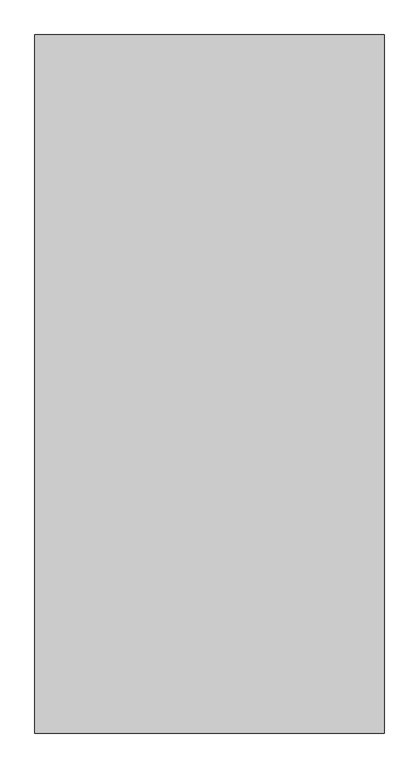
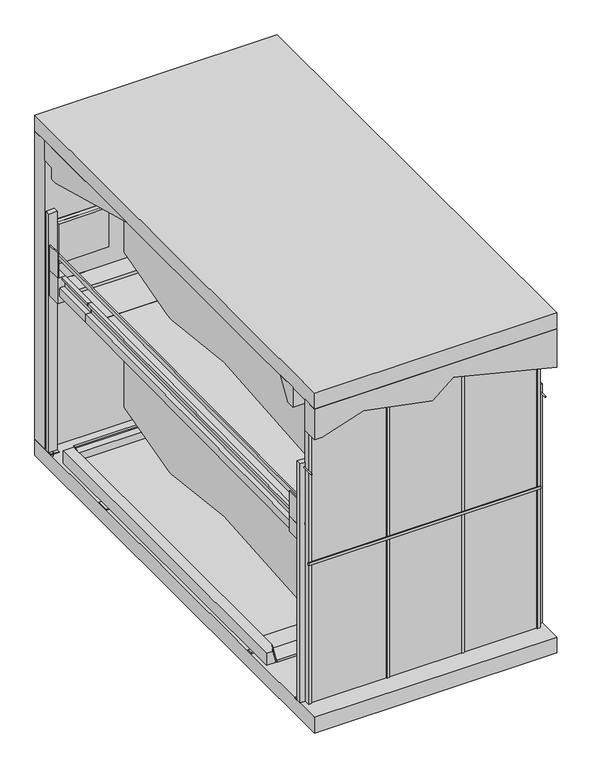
"""IFC4 building model written with IfcOpenShell, lengths in millimetres: proxy geometry, TrendVario 6200+ : TrendVario 6200+."""

from ifc_helpers import new_model, si_unit, point, frame, frame_2d, origin, origin_with_axes, place, context, project, spatial, polyline, circle_curve, trimmed, segment, composite_curve, outline, extrude, faceted_brep, source, transform, mapped, element, save
from ifc_brep_helpers import plane_surface, cylinder_surface, spline_surface, advanced_brep


def generic_models_32a2c880(model_context):
    return source(origin(), model_context, "Body", "SolidModel", [
        extrude(outline(composite_curve([segment(trimmed(circle_curve(frame_2d((2850.0, 5300.0602659)), 6.0), [point((2850.0, 5294.0602659))], [point((2850.0, 5306.0602659))], False, "CARTESIAN"), True, "CONTINUOUS"), segment(trimmed(circle_curve(frame_2d((2850.0, 5300.0602659)), 6.0), [point((2850.0, 5306.0602659))], [point((2850.0, 5294.0602659))], False, "CARTESIAN"), True, "CONTINUOUS")], self_intersect=False)), frame((0.0, 0.0, -150.0), z_axis=(0.0, 0.0, 1.0), x_axis=(1.0, 0.0, 0.0)), (0.0, 0.0, 1.0), 150.0),
        extrude(outline(composite_curve([segment(trimmed(circle_curve(frame_2d((50.0, 5300.0602653)), 6.0), [point((44.0, 5300.0602653))], [point((56.0, 5300.0602653))], False, "CARTESIAN"), True, "CONTINUOUS"), segment(trimmed(circle_curve(frame_2d((50.0, 5300.0602653)), 6.0), [point((56.0, 5300.0602653))], [point((44.0, 5300.0602653))], False, "CARTESIAN"), True, "CONTINUOUS")], self_intersect=False)), frame((0.0, 0.0, -150.0), z_axis=(0.0, 0.0, 1.0), x_axis=(1.0, 0.0, 0.0)), (0.0, 0.0, 1.0), 150.0),
        extrude(outline(composite_curve([segment(trimmed(circle_curve(frame_2d((2850.0, 170.0)), 6.0), [point((2850.0, 164.0))], [point((2850.0, 176.0))], False, "CARTESIAN"), True, "CONTINUOUS"), segment(trimmed(circle_curve(frame_2d((2850.0, 170.0)), 6.0), [point((2850.0, 176.0))], [point((2850.0, 164.0))], False, "CARTESIAN"), True, "CONTINUOUS")], self_intersect=False)), frame((0.0, 0.0, -150.0), z_axis=(0.0, 0.0, 1.0), x_axis=(1.0, 0.0, 0.0)), (0.0, 0.0, 1.0), 150.0),
        extrude(outline(composite_curve([segment(trimmed(circle_curve(frame_2d((50.0, 170.0)), 6.0), [point((44.0, 170.0))], [point((56.0, 170.0))], False, "CARTESIAN"), True, "CONTINUOUS"), segment(trimmed(circle_curve(frame_2d((50.0, 170.0)), 6.0), [point((56.0, 170.0))], [point((44.0, 170.0))], False, "CARTESIAN"), True, "CONTINUOUS")], self_intersect=False)), frame((0.0, 0.0, -150.0), z_axis=(0.0, 0.0, 1.0), x_axis=(1.0, 0.0, 0.0)), (0.0, 0.0, 1.0), 150.0),
        extrude(outline(composite_curve([segment(trimmed(circle_curve(frame_2d((2965.0, 2850.0)), 6.0), [point((2965.0, 2844.0))], [point((2965.0, 2856.0))], False, "CARTESIAN"), True, "CONTINUOUS"), segment(trimmed(circle_curve(frame_2d((2965.0, 2850.0)), 6.0), [point((2965.0, 2856.0))], [point((2965.0, 2844.0))], False, "CARTESIAN"), True, "CONTINUOUS")], self_intersect=False)), frame((0.0, -50.0, 0.0), z_axis=(0.0, 1.0, 0.0), x_axis=(0.0, 0.0, 1.0)), (0.0, 0.0, 1.0), 150.0),
        extrude(outline(composite_curve([segment(trimmed(circle_curve(frame_2d((2965.0, 50.0)), 6.0), [point((2965.0, 44.0))], [point((2965.0, 56.0))], False, "CARTESIAN"), True, "CONTINUOUS"), segment(trimmed(circle_curve(frame_2d((2965.0, 50.0)), 6.0), [point((2965.0, 56.0))], [point((2965.0, 44.0))], False, "CARTESIAN"), True, "CONTINUOUS")], self_intersect=False)), frame((0.0, -50.0, 0.0), z_axis=(0.0, 1.0, 0.0), x_axis=(0.0, 0.0, 1.0)), (0.0, 0.0, 1.0), 150.0),
        extrude(outline(composite_curve([segment(trimmed(circle_curve(frame_2d((2965.0, 50.0)), 6.0), [point((2965.0, 44.0))], [point((2965.0, 56.0))], False, "CARTESIAN"), True, "CONTINUOUS"), segment(trimmed(circle_curve(frame_2d((2965.0, 50.0)), 6.0), [point((2965.0, 56.0))], [point((2965.0, 44.0))], False, "CARTESIAN"), True, "CONTINUOUS")], self_intersect=False)), frame((0.0, 5369.5816653, 0.0), z_axis=(0.0, 1.0, 0.0), x_axis=(0.0, 0.0, 1.0)), (0.0, 0.0, 1.0), 150.0),
        extrude(outline(composite_curve([segment(trimmed(circle_curve(frame_2d((2965.0, 2850.0)), 6.0), [point((2965.0, 2844.0))], [point((2965.0, 2856.0))], False, "CARTESIAN"), True, "CONTINUOUS"), segment(trimmed(circle_curve(frame_2d((2965.0, 2850.0)), 6.0), [point((2965.0, 2856.0))], [point((2965.0, 2844.0))], False, "CARTESIAN"), True, "CONTINUOUS")], self_intersect=False)), frame((0.0, 5369.6045102, 0.0), z_axis=(0.0, 1.0, 0.0), x_axis=(0.0, 0.0, 1.0)), (0.0, 0.0, 1.0), 150.0),
        extrude(outline(polyline([(0.0, -60.0), (0.0, 0.0), (4430.0, 0.0), (4430.0, -60.0), (0.0, -60.0)])), frame((2811.0, 171.9869847, 2038.264563), z_axis=(0.0, -0.008726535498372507, 0.9999619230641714), x_axis=(0.0, 0.9999619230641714, 0.008726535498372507)), (0.0, 0.0, 1.0), 100.0),
        extrude(outline(polyline([(0.0, -19.0), (0.0, 0.0), (4440.0, 0.0), (4440.0, -19.0), (0.0, -19.0)])), frame((2863.0, 167.9116926, 2505.246781), z_axis=(0.0, -0.008726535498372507, 0.9999619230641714), x_axis=(0.0, 0.9999619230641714, 0.008726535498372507)), (0.0, 0.0, 1.0), 56.0),
        faceted_brep([(2800.0, 4599.8286538, 2304.9144337), (2843.0, 4599.8286538, 2304.9144337), (2843.0, 4600.0904499, 2274.915576), (2840.0, 4600.0904499, 2274.915576), (2840.0, 4599.8548334, 2301.9145479), (2803.0, 4599.8548334, 2301.9145479), (2803.0, 4602.6211451, 1984.9266183), (2748.0, 4602.6211451, 1984.9266183), (2748.0, 4602.210998, 2031.9248287), (2711.0, 4602.210998, 2031.9248287), (2711.0, 4602.1848184, 2034.9247145), (2751.0, 4602.1848184, 2034.9247145), (2751.0, 4602.5949655, 1987.9265041), (2800.0, 4602.5949655, 1987.9265041), (2803.0, 102.7924914, 1945.6572086), (2803.0, 100.0261796, 2262.6451382), (2840.0, 100.0261796, 2262.6451382), (2840.0, 100.2617961, 2235.6461663), (2843.0, 100.2617961, 2235.6461663), (2843.0, 100.0, 2265.645024), (2800.0, 100.0, 2265.645024), (2800.0, 102.7924914, 1945.6572086), (2800.0, 202.7886837, 1946.5298621), (2748.0, 202.7886837, 1946.5298621), (2748.0, 202.3785365, 1993.5280725), (2711.0, 202.3785365, 1993.5280725), (2711.0, 202.3523569, 1996.5279583), (2751.0, 202.3523569, 1996.5279583), (2751.0, 202.7625041, 1949.5297479), (2800.0, 202.7625041, 1949.5297479)], [[[0, 1, 2, 3, 4, 5, 6, 7, 8, 9, 10, 11, 12, 13]], [[14, 15, 16, 17, 18, 19, 20, 21]], [[1, 0, 20, 19]], [[2, 1, 19, 18]], [[3, 2, 18, 17]], [[4, 3, 17, 16]], [[5, 4, 16, 15]], [[6, 5, 15, 14]], [[7, 6, 14, 21, 22, 23]], [[8, 7, 23, 24]], [[9, 8, 24, 25]], [[10, 9, 25, 26]], [[11, 10, 26, 27]], [[12, 11, 27, 28]], [[13, 12, 28, 29]], [[0, 13, 29, 22, 21, 20]], [[22, 29, 28, 27, 26, 25, 24, 23]]]),
        extrude(outline(polyline([(2133.867435, 0.0), (2133.867435, -1200.0), (-1962.132565, -1200.0), (-1962.132565, 0.0), (2133.867435, 0.0)])), frame((1600.0, 2468.3986345, 2016.3034445), z_axis=(0.0, -0.008726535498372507, 0.9999619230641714), x_axis=(0.0, 0.9999619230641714, 0.008726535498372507)), (0.0, 0.0, 1.0), 8.0),
        extrude(outline(polyline([(0.0, -1500.0), (0.0, 0.0), (769.9999999, 0.0), (769.9999999, -1500.0), (0.0, -1500.0)])), frame((100.0, 4602.1898877, 2034.9247587), z_axis=(0.0, -0.008726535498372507, 0.9999619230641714), x_axis=(0.0, 0.9999619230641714, 0.008726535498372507)), (0.0, 0.0, 1.0), 8.0),
        extrude(outline(polyline([(5133.7158509, 2091.5652956), (5371.7067886, 2093.642211), (5372.0907561, 2049.6438864), (5369.0908704, 2049.6177068), (5368.7330824, 2090.6161457), (5136.7419163, 2088.5915894), (5137.0997042, 2047.5931506), (5134.0998185, 2047.566971), (5133.7158509, 2091.5652956)])), frame((100.0, 0.0, 0.0), z_axis=(1.0, 0.0, 0.0), x_axis=(0.0, 1.0, 0.0)), (0.0, 0.0, 1.0), 1500.0),
        extrude(outline(polyline([(319.9999999, 0.0), (319.9999999, -43.0), (289.9999999, -43.0), (289.9999999, -40.0), (317.0, -40.0), (317.0, -3.0), (0.0, -3.0), (0.0, 52.0), (46.9999999, 52.0), (46.9999999, 89.0), (49.9999999, 89.0), (49.9999999, 49.0), (2.9999999, 49.0), (2.9999999, 0.0), (319.9999999, 0.0)])), frame((100.0, 4602.6262144, 1984.9266626), z_axis=(0.0, 0.9999619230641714, 0.008726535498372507), x_axis=(0.0, -0.008726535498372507, 0.9999619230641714)), (0.0, 0.0, 1.0), 770.0),
        extrude(outline(polyline([(200.0, 8.0), (200.0, 0.0), (100.0, 0.0), (100.0, 3025.0), (160.0, 3025.0), (160.0, 8.0), (200.0, 8.0)])), frame((0.0, 0.0, 0.0), z_axis=(1.0, 0.0, 0.0), x_axis=(0.0, 1.0, 0.0)), (0.0, 0.0, 1.0), 100.0),
        faceted_brep([(0.0, 5249.9885779, 3650.0), (2901.0, 5249.9885779, 3650.0), (2901.0, 5249.9885779, 3500.0), (0.0, 5249.9885779, 3500.0), (0.0, 5399.9657348, 3650.0), (2901.0, 5399.9657348, 3650.0), (2901.0, 5167.6820669, 3500.0), (2901.0, 3699.9673137, 3900.0057953), (0.0, 3699.9885779, 3900.0), (0.0, 5167.6820669, 3500.0), (2901.0, 5399.9657348, 3900.0), (0.0, 5399.9657348, 3900.0)], [[[0, 1, 2, 3]], [[1, 0, 4, 5]], [[6, 7, 8, 9]], [[10, 7, 6, 2, 1, 5]], [[8, 11, 4, 0, 3, 9]], [[11, 10, 5, 4]], [[7, 10, 11, 8]], [[2, 6, 9, 3]]]),
        extrude(outline(polyline([(3511.8273555, 0.0), (3511.8273555, 90.0080034), (3672.5161926, 584.5573919), (3511.8273555, 1411.229794), (3719.8801857, 1665.5456754), (3411.8468264, 2901.0), (3900.0, 2901.0), (3900.0, 0.0), (3511.8273555, 0.0)])), frame((0.0, -200.0, 0.0), z_axis=(0.0, 1.0, 0.0), x_axis=(0.0, 0.0, 1.0)), (0.0, 0.0, 1.0), 200.0),
        extrude(outline(polyline([(100.0, 45.0), (100.0, 55.0), (2800.0, 55.0), (2800.0, 45.0), (100.0, 45.0)])), origin_with_axes(), (0.0, 0.0, 1.0), 3526.0),
        extrude(outline(polyline([(1932.0, 44.0), (1932.0, 35.0), (1902.0, 35.0), (1902.0, 44.0), (1932.0, 44.0)])), origin_with_axes(), (0.0, 0.0, 1.0), 3526.0),
        extrude(outline(polyline([(1031.0, 44.0), (1031.0, 35.0), (1001.0, 35.0), (1001.0, 44.0), (1031.0, 44.0)])), origin_with_axes(), (0.0, 0.0, 1.0), 3526.0),
        extrude(outline(polyline([(0.0, -19.0), (0.0, 0.0), (5147.1058324, 0.0), (5147.1058324, -19.0), (0.0, -19.0)])), frame((37.0, 5302.7546227, 2550.0578764), z_axis=(0.0, -0.008726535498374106, 0.9999619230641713), x_axis=(0.0, -0.9999619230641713, -0.008726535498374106)), (0.0, 0.0, 1.0), 56.0),
        extrude(outline(polyline([(18.0, 5142.5968952), (7.0, 5142.5968952), (7.0, 5312.5968952), (18.0, 5312.5968952), (18.0, 5142.5968952)])), frame((0.0, 0.0, 2319.0), z_axis=(0.0, 0.0, 1.0), x_axis=(1.0, 0.0, 0.0)), (0.0, 0.0, 1.0), 310.0),
        extrude(outline(polyline([(2882.0, 5142.0602659), (2882.0, 5312.0602659), (2893.0, 5312.0602659), (2893.0, 5142.0602659), (2882.0, 5142.0602659)])), frame((0.0, 0.0, 2319.0), z_axis=(0.0, 0.0, 1.0), x_axis=(1.0, 0.0, 0.0)), (0.0, 0.0, 1.0), 310.0),
        advanced_brep(
        [(2878.3930268, 838.0907234, 21.8284597), (2878.3930268, 838.0907234, 173.2797049), (2800.0, 838.0907234, 173.2797049), (2760.0, 838.0907234, 21.8284597), (2878.3930268, 5057.0907234, 21.8284597), (2750.0, 5057.0907234, 21.8284597), (2750.0, 5057.0907234, 173.2797049), (2878.3930268, 5057.0907234, 173.2797049), (2750.0, 938.0907234, 173.2797049), (2750.0, 848.0907234, 21.8284597)],
        [
            (0, 1),
            (1, 2),
            (2, 3),
            (3, 0),
            (4, 5),
            (5, 6),
            (6, 7),
            (7, 4),
            (0, 4),
            (7, 1),
            (6, 8),
            (8, 2),
            (5, 9),
            (9, 8),
            (3, 9),
        ],
        [
            plane_surface(frame((2750.0, 838.0907234, 0.0), z_axis=(0.0, -1.0, 0.0), x_axis=(0.0, 0.0, 1.0))),
            plane_surface(frame((2750.0, 5057.0907234, 0.0), z_axis=(0.0, 1.0, 0.0), x_axis=(0.0, 0.0, 1.0))),
            plane_surface(frame((2878.3930268, 838.0907234, 21.8284597), z_axis=(1.0, 0.0, 0.0), x_axis=(0.0, 1.0, 0.0))),
            plane_surface(frame((2878.3930268, 838.0907234, 173.2797049), z_axis=(0.0, 0.0, 1.0), x_axis=(0.0, 1.0, 0.0))),
            plane_surface(frame((2750.0, 838.0907234, 173.2797049), z_axis=(-1.0, 0.0, 0.0), x_axis=(0.0, 1.0, 0.0))),
            plane_surface(frame((2750.0, 838.0907234, 21.8284597), z_axis=(0.0, 0.0, -1.0), x_axis=(0.0, 1.0, 0.0))),
            spline_surface(1, 1, [[(2750.0, 938.0907234, 173.2797049), (2800.0, 838.0907234, 173.2797049)], [(2750.0, 848.0907234, 21.8284597), (2760.0, 838.0907234, 21.8284597)]], [2, 2], [2, 2], [0.0, 1.0], [0.0, 1.0]),
        ],
        [
            (0, [[1, 2, 3, 4]]),
            (1, [[5, 6, 7, 8]]),
            (2, [[-1, 9, -8, 10]]),
            (3, [[-7, 11, 12, -2, -10]]),
            (4, [[-6, 13, 14, -11]]),
            (5, [[-5, -9, -4, 15, -13]]),
            (6, [[-3, -12, -14, -15]]),
        ],
    ),
        advanced_brep(
        [(22.4384321, 838.0907234, 173.2797049), (22.4384321, 838.0907234, 20.8412855), (140.0, 838.0907234, 20.8412855), (100.0, 838.0907234, 173.2797049), (150.0, 5057.0907234, 20.8412855), (22.4384321, 5057.0907234, 20.8412855), (22.4384321, 5057.0907234, 173.2797049), (150.0, 5057.0907234, 173.2797049), (150.0, 938.0907234, 173.2797049), (150.0, 848.0907234, 20.8412855)],
        [
            (0, 1),
            (1, 2),
            (2, 3),
            (3, 0),
            (4, 5),
            (5, 6),
            (6, 7),
            (7, 4),
            (7, 8),
            (8, 9),
            (9, 4),
            (6, 0),
            (3, 8),
            (5, 1),
            (9, 2),
        ],
        [
            plane_surface(frame((150.0, 838.0907234, 20.8412855), z_axis=(0.0, -1.0, 0.0), x_axis=(0.0, 0.0, 1.0))),
            plane_surface(frame((150.0, 5057.0907234, 20.8412855), z_axis=(0.0, 1.0, 0.0), x_axis=(0.0, 0.0, -1.0))),
            plane_surface(frame((150.0, 838.0907234, 20.8412855), z_axis=(1.0, 0.0, 0.0), x_axis=(0.0, 1.0, 0.0))),
            plane_surface(frame((150.0, 838.0907234, 173.2797049), z_axis=(0.0, 0.0, 1.0), x_axis=(0.0, 1.0, 0.0))),
            plane_surface(frame((22.4384321, 838.0907234, 173.2797049), z_axis=(-1.0, 0.0, 0.0), x_axis=(0.0, 1.0, 0.0))),
            plane_surface(frame((22.4384321, 838.0907234, 20.8412855), z_axis=(0.0, 0.0, -1.0), x_axis=(0.0, 1.0, 0.0))),
            spline_surface(1, 1, [[(150.0, 848.0907234, 20.8412855), (140.0, 838.0907234, 20.8412855)], [(150.0, 938.0907234, 173.2797049), (100.0, 838.0907234, 173.2797049)]], [2, 2], [2, 2], [0.0, 1.0], [0.0, 1.0]),
        ],
        [
            (0, [[1, 2, 3, 4]]),
            (1, [[5, 6, 7, 8]]),
            (2, [[-8, 9, 10, 11]]),
            (3, [[-7, 12, -4, 13, -9]]),
            (4, [[-1, -12, -6, 14]]),
            (5, [[-5, -11, 15, -2, -14]]),
            (6, [[-3, -15, -10, -13]]),
        ],
    ),
        extrude(outline(polyline([(5369.6045102, 0.0), (5270.0602659, 0.0), (5270.0602659, 8.0), (5310.0602659, 8.0), (5310.0602659, 3025.0), (5369.6045102, 3025.0), (5369.6045102, 0.0)])), frame((2800.0, 0.0, 0.0), z_axis=(1.0, 0.0, 0.0), x_axis=(0.0, 1.0, 0.0)), (0.0, 0.0, 1.0), 100.0),
        extrude(outline(polyline([(5269.5968952, 0.0), (5269.5968952, 8.0), (5309.5968952, 8.0), (5309.5968952, 3025.0), (5369.5968952, 3025.0), (5369.5968952, 0.0), (5269.5968952, 0.0)])), frame((0.0, 0.0, 0.0), z_axis=(1.0, 0.0, 0.0), x_axis=(0.0, 1.0, 0.0)), (0.0, 0.0, 1.0), 100.0),
        advanced_brep(
        [(850.0, 5220.0526533, 335.5997321), (850.0, 4313.3699728, 92.6548401), (850.0, 4224.7221662, 85.0351129), (850.0, 3145.3807126, 219.0), (850.0, 1424.180165, 85.3914386), (850.0, 1340.4923675, 90.5100035), (850.0, 220.4923675, 349.0823776), (850.0, 220.4923675, 1334.0), (850.0, 520.4923675, 1884.0), (850.0, 3620.0831131, 1884.0000002), (850.0, 5220.0526556, 1434.0085664), (2750.0, 220.4923675, 349.0823776), (2750.0, 1340.4923675, 90.5100035), (2750.0, 1424.180165, 85.3914386), (2750.0, 3145.3807126, 219.0), (2750.0, 4224.7221662, 85.0351129), (2750.0, 4313.3699728, 92.6548401), (2750.0, 5220.0526533, 335.5997321), (2750.0, 5220.0526556, 1434.0085664), (2750.0, 3620.0831131, 1884.0000002), (2750.0, 520.4923675, 1884.0), (2750.0, 220.4923675, 1334.0)],
        [
            (0, 1),
            (1, 2, circle_curve(frame((850.0, 4247.6299354, 338.0), z_axis=(-1.0, 0.0, 0.0), x_axis=(0.0, 1.0, 0.0)), 254.0)),
            (2, 3),
            (3, 4),
            (4, 5, circle_curve(frame((850.0, 1397.6299354, 338.0), z_axis=(-1.0, 0.0, 0.0), x_axis=(0.0, 1.0, 0.0)), 254.0)),
            (5, 6),
            (6, 7),
            (7, 8),
            (8, 9),
            (9, 10),
            (10, 0),
            (11, 12),
            (12, 13, circle_curve(frame((2750.0, 1397.6299354, 338.0), z_axis=(1.0, 0.0, 0.0), x_axis=(0.0, 1.0, 0.0)), 254.0)),
            (13, 14),
            (14, 15),
            (15, 16, circle_curve(frame((2750.0, 4247.6299354, 338.0), z_axis=(1.0, 0.0, 0.0), x_axis=(0.0, 1.0, 0.0)), 254.0)),
            (16, 17),
            (17, 18),
            (18, 19),
            (19, 20),
            (20, 21),
            (21, 11),
            (17, 0),
            (10, 18),
            (16, 1),
            (15, 2),
            (14, 3),
            (13, 4),
            (12, 5),
            (11, 6),
            (21, 7),
            (9, 19),
            (8, 20),
        ],
        [
            plane_surface(frame((850.0, 220.4923675, 0.0), z_axis=(-1.0, 0.0, 0.0), x_axis=(0.0, 0.0, 1.0))),
            plane_surface(frame((2750.0, 220.4923675, 0.0), z_axis=(1.0, 0.0, 0.0), x_axis=(0.0, 0.0, 1.0))),
            plane_surface(frame((850.0, 5220.0526533, 1105.8846371), z_axis=(0.0, 1.0, 0.0), x_axis=(1.0, 0.0, 0.0))),
            plane_surface(frame((850.0, 5220.0526533, 335.5997321), z_axis=(0.0, 0.25881904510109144, -0.9659258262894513), x_axis=(1.0, 0.0, 0.0))),
            cylinder_surface(frame((850.0, 4247.6299354, 338.0), z_axis=(-1.0, 0.0, 0.0), x_axis=(0.0, 1.0, 0.0)), 254.0),
            plane_surface(frame((850.0, 4224.7221662, 85.0351129), z_axis=(0.0, -0.12317213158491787, -0.992385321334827), x_axis=(1.0, 0.0, 0.0))),
            plane_surface(frame((850.0, 3145.3807126, 219.0), z_axis=(0.0, 0.07739239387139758, -0.9970007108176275), x_axis=(1.0, 0.0, 0.0))),
            cylinder_surface(frame((850.0, 1397.6299354, 338.0), z_axis=(-1.0, 0.0, 0.0), x_axis=(0.0, 1.0, 0.0)), 254.0),
            plane_surface(frame((850.0, 1340.4923675, 90.5100035), z_axis=(0.0, -0.22495105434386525, -0.9743700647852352), x_axis=(1.0, 0.0, 0.0))),
            plane_surface(frame((850.0, 220.4923675, 349.0823776), z_axis=(0.0, -1.0, 0.0), x_axis=(1.0, 0.0, 0.0))),
            plane_surface(frame((850.0, 3620.0831131, 1884.0000002), z_axis=(0.0, 0.27074557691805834, 0.9626509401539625), x_axis=(1.0, 0.0, 0.0))),
            plane_surface(frame((850.0, 620.4885622, 1884.0000002), z_axis=(0.0, 0.0, 1.0), x_axis=(1.0, 0.0, 0.0))),
            plane_surface(frame((850.0, 220.4923675, 1334.0), z_axis=(0.0, -0.8778955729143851, 0.478852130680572), x_axis=(1.0, 0.0, 0.0))),
        ],
        [
            (0, [[1, 2, 3, 4, 5, 6, 7, 8, 9, 10, 11]]),
            (1, [[12, 13, 14, 15, 16, 17, 18, 19, 20, 21, 22]]),
            (2, [[23, -11, 24, -18]]),
            (3, [[-1, -23, -17, 25]]),
            (4, [[-2, -25, -16, 26]]),
            (5, [[-3, -26, -15, 27]]),
            (6, [[-4, -27, -14, 28]]),
            (7, [[-5, -28, -13, 29]]),
            (8, [[-6, -29, -12, 30]]),
            (9, [[-7, -30, -22, 31]]),
            (10, [[-10, 32, -19, -24]]),
            (11, [[-20, -32, -9, 33]]),
            (12, [[-8, -31, -21, -33]]),
        ],
    ),
        advanced_brep(
        [(850.0080034, 219.0783305, 2530.0), (850.0080034, 212.7549246, 3254.5905482), (850.0080034, 507.9448535, 3807.0791047), (850.0080034, 614.5742843, 3808.0096456), (850.0080034, 616.0660458, 3810.8016825), (850.0080034, 3620.0751529, 3837.0172728), (850.0080034, 5220.0526533, 3400.9650555), (850.0080034, 5220.0602659, 2299.8475577), (850.0080034, 4315.7898833, 2049.0711861), (850.0080034, 4227.211946, 2040.6781608), (850.0080034, 3146.7425411, 2165.2190354), (850.0080034, 1426.7734714, 2016.5954437), (850.0080034, 1343.0441931, 2020.9835093), (850.0080034, 226.8699728, 2268.4333765), (850.0080034, 224.5873155, 2530.0), (2750.0080034, 507.9448535, 3807.0791047), (2750.0080034, 212.7549245, 3254.5905482), (2750.0080034, 219.0783305, 2530.0), (2750.0080034, 224.5873155, 2530.0), (2750.0080034, 226.8699728, 2268.4333765), (2750.0080034, 1343.0441931, 2020.9835093), (2750.0080034, 1426.7734714, 2016.5954437), (2750.0080034, 3146.7425411, 2165.2190354), (2750.0080034, 4227.211946, 2040.6781608), (2750.0080034, 4315.7898833, 2049.0711861), (2750.0080034, 5220.0602659, 2299.8475577), (2750.0080034, 5220.0526533, 3400.9650555), (2750.0080034, 3620.0751529, 3837.0172728), (2750.0080034, 616.0660458, 3810.8016825), (2750.0080034, 614.5742843, 3808.0096456)],
        [
            (0, 1),
            (1, 2),
            (2, 3),
            (3, 4),
            (4, 5),
            (5, 6),
            (6, 7),
            (7, 8),
            (8, 9, circle_curve(frame((850.0080034, 4247.9113358, 2293.8333213), z_axis=(-1.0, 6.846874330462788e-12, 0.0), x_axis=(6.846340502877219e-12, 0.9999619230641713, 0.008726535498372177)), 254.0)),
            (9, 10),
            (10, 11),
            (11, 12, circle_curve(frame((850.0080034, 1398.0198551, 2268.9626951), z_axis=(-1.0, 6.846874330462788e-12, 0.0), x_axis=(6.846340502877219e-12, 0.9999619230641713, 0.008726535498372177)), 254.0)),
            (12, 13),
            (13, 14),
            (14, 0),
            (15, 16),
            (16, 17),
            (17, 18),
            (18, 19),
            (19, 20),
            (20, 21, circle_curve(frame((2750.0080034, 1398.0198551, 2268.9626951), z_axis=(1.0, -6.846874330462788e-12, 0.0), x_axis=(6.846340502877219e-12, 0.9999619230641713, 0.008726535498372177)), 254.0)),
            (21, 22),
            (22, 23),
            (23, 24, circle_curve(frame((2750.0080034, 4247.9113358, 2293.8333213), z_axis=(1.0, -6.846874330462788e-12, 0.0), x_axis=(6.846340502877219e-12, 0.9999619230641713, 0.008726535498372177)), 254.0)),
            (24, 25),
            (25, 26),
            (26, 27),
            (27, 28),
            (28, 29),
            (29, 15),
            (2, 15),
            (29, 3),
            (1, 16),
            (17, 0),
            (14, 18),
            (4, 28),
            (27, 5),
            (26, 6),
            (25, 7),
            (24, 8),
            (23, 9),
            (22, 10),
            (21, 11),
            (20, 12),
            (19, 13),
        ],
        [
            plane_surface(frame((850.0080034, 428.8717402, 3900.0), z_axis=(-1.0, 6.846035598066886e-12, 0.0), x_axis=(0.0, 0.0, 1.0))),
            plane_surface(frame((2750.0080034, 428.8717402, 3900.0), z_axis=(1.0, -6.846035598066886e-12, 0.0), x_axis=(0.0, 0.0, 1.0))),
            plane_surface(frame((850.0080034, 507.9448535, 3807.0791047), z_axis=(0.0, -0.008726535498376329, 0.9999619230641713), x_axis=(1.0, -6.846035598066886e-12, 0.0))),
            plane_surface(frame((850.0080034, 212.7549246, 3254.5905482), z_axis=(-6.038215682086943e-12, -0.8820017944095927, 0.4712460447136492), x_axis=(1.0, -6.846035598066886e-12, 0.0))),
            plane_surface(frame((850.0080034, 4789.9238543, 2530.0), z_axis=(0.0, 0.0, -1.0), x_axis=(1.0, -6.845999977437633e-12, 0.0))),
            plane_surface(frame((850.0080034, 219.0783305, 2530.0), z_axis=(-6.845774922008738e-12, -0.9999619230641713, -0.008726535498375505), x_axis=(1.0, -6.846035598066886e-12, 0.0))),
            plane_surface(frame((850.0080034, 616.0660458, 3810.8016825), z_axis=(0.0, -0.008726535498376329, 0.9999619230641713), x_axis=(1.0, -6.845999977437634e-12, 0.0))),
            plane_surface(frame((850.0080034, 3620.0751529, 3837.0172728), z_axis=(1.8001286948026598e-12, 0.2629460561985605, 0.9648105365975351), x_axis=(1.0, -6.845999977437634e-12, 0.0))),
            plane_surface(frame((850.0080034, 320.8761169, 3258.313126), z_axis=(-6.0382156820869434e-12, -0.8820017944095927, 0.4712460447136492), x_axis=(1.0, -6.846035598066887e-12, 0.0))),
            plane_surface(frame((850.0080034, 5220.0526533, 3400.9650555), z_axis=(6.845999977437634e-12, 1.0, 0.0), x_axis=(1.0, -6.845999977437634e-12, 0.0))),
            plane_surface(frame((2750.0080034, 4315.7898833, 2049.0711861), z_axis=(1.7721223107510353e-12, 0.26723837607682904, -0.963630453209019), x_axis=(-1.0, 6.8459999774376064e-12, 0.0))),
            cylinder_surface(frame((2750.0080034, 4247.9113358, 2293.8333213), z_axis=(1.0, -6.846874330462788e-12, 0.0), x_axis=(6.846340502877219e-12, 0.9999619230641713, 0.008726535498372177)), 254.0),
            plane_surface(frame((2750.0080034, 3146.7425411, 2165.2190354), z_axis=(0.0, -0.11450735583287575, -0.9934224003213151), x_axis=(-1.0, 6.845999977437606e-12, 0.0))),
            plane_surface(frame((2750.0080034, 1426.7734714, 2016.5954437), z_axis=(0.0, 0.08608980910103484, -0.9962873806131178), x_axis=(-1.0, 6.845999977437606e-12, 0.0))),
            cylinder_surface(frame((2750.0080034, 1398.0198551, 2268.9626951), z_axis=(1.0, -6.846874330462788e-12, 0.0), x_axis=(6.846340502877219e-12, 0.9999619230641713, 0.008726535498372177)), 254.0),
            plane_surface(frame((2750.0080034, 226.8699728, 2268.4333765), z_axis=(-1.5398915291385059e-12, -0.21643961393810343, -0.9762960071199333), x_axis=(-1.0, 6.845999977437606e-12, 0.0))),
            plane_surface(frame((2750.0080034, 220.9776342, 2943.6285041), z_axis=(-6.8462590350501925e-12, -0.9999619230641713, -0.00872653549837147), x_axis=(-1.0, 6.845999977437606e-12, 0.0))),
        ],
        [
            (0, [[1, 2, 3, 4, 5, 6, 7, 8, 9, 10, 11, 12, 13, 14, 15]]),
            (1, [[16, 17, 18, 19, 20, 21, 22, 23, 24, 25, 26, 27, 28, 29, 30]]),
            (2, [[31, -30, 32, -3]]),
            (3, [[-2, 33, -16, -31]]),
            (4, [[34, -15, 35, -18]]),
            (5, [[-1, -34, -17, -33]]),
            (6, [[-5, 36, -28, 37]]),
            (7, [[-6, -37, -27, 38]]),
            (8, [[-36, -4, -32, -29]]),
            (9, [[-7, -38, -26, 39]]),
            (10, [[-25, 40, -8, -39]]),
            (11, [[-24, 41, -9, -40]]),
            (12, [[-23, 42, -10, -41]]),
            (13, [[-22, 43, -11, -42]]),
            (14, [[-21, 44, -12, -43]]),
            (15, [[-20, 45, -13, -44]]),
            (16, [[-45, -19, -35, -14]]),
        ],
    ),
        extrude(outline(polyline([(1932.0, 35.0), (1902.0, 35.0), (1902.0, 44.0), (1932.0, 44.0), (1932.0, 35.0)])), origin_with_axes(), (0.0, 0.0, 1.0), 3526.0),
        extrude(outline(polyline([(1031.0, 35.0), (1001.0, 35.0), (1001.0, 44.0), (1031.0, 44.0), (1031.0, 35.0)])), origin_with_axes(), (0.0, 0.0, 1.0), 3526.0),
        extrude(outline(polyline([(700.0, 5369.6045096), (700.0, 5284.6045096), (100.0, 5284.6045096), (100.0, 5369.6045096), (700.0, 5369.6045096)])), frame((0.0, 0.0, 2379.0), z_axis=(0.0, 0.0, 1.0), x_axis=(1.0, 0.0, 0.0)), (0.0, 0.0, 1.0), 500.0),
        extrude(outline(polyline([(250.0, 3650.0), (250.0, 3900.0), (500.0, 3900.0), (349.6363636, 3650.0), (250.0, 3650.0)])), frame((0.0, 0.0, 0.0), z_axis=(1.0, 0.0, 0.0), x_axis=(0.0, 1.0, 0.0)), (0.0, 0.0, 1.0), 2901.0),
        extrude(outline(polyline([(60.0, 32.0), (60.0, 100.0), (2840.0, 100.0), (2840.0, 32.0), (60.0, 32.0)])), frame((0.0, 0.0, 3526.0), z_axis=(0.0, 0.0, 1.0), x_axis=(1.0, 0.0, 0.0)), (0.0, 0.0, 1.0), 74.0),
        extrude(outline(polyline([(60.0, 20.0), (60.0, 34.0), (2840.0, 34.0), (2840.0, 20.0), (60.0, 20.0)])), frame((0.0, 0.0, 1763.0), z_axis=(0.0, 0.0, 1.0), x_axis=(1.0, 0.0, 0.0)), (0.0, 0.0, 1.0), 30.0),
        extrude(outline(polyline([(2840.0, 32.0), (2800.0, 32.0), (2800.0, 100.0), (2840.0, 100.0), (2840.0, 32.0)])), origin_with_axes(), (0.0, 0.0, 1.0), 3526.0),
        extrude(outline(polyline([(100.0, 32.0), (60.0, 32.0), (60.0, 100.0), (100.0, 100.0), (100.0, 32.0)])), origin_with_axes(), (0.0, 0.0, 1.0), 3526.0),
        extrude(outline(polyline([(0.0, -19.0), (0.0, 0.0), (702.4860602, 0.0), (702.4860602, -19.0), (0.0, -19.0)])), frame((2882.0, 5310.2019427, 2550.1228682), z_axis=(0.0, -0.00872653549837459, 0.9999619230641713), x_axis=(0.0, -0.9999619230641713, -0.00872653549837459)), (0.0, 0.0, 1.0), 56.0),
        extrude(outline(polyline([(0.0, -59.9999949), (0.0, 0.0), (622.0497333, 0.0), (622.0497333, -59.9999949), (0.0, -59.9999949)])), frame((2810.9999948, 4601.8183039, 2076.9231152), z_axis=(0.0, -0.00872653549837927, 0.9999619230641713), x_axis=(0.0, 0.9999619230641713, 0.00872653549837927)), (0.0, 0.0, 1.0), 100.0),
        extrude(outline(polyline([(0.0, -60.0), (0.0, 0.0), (4430.0, 0.0), (4430.0, -60.0), (0.0, -60.0)])), frame((29.0, 171.9869847, 2038.264563), z_axis=(0.0, -0.008726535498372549, 0.9999619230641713), x_axis=(0.0, 0.9999619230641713, 0.008726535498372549)), (0.0, 0.0, 1.0), 100.0),
        extrude(outline(polyline([(0.0, -60.0), (0.0, 0.0), (585.0, 0.0), (585.0, -60.0), (0.0, -60.0)])), frame((29.0, 4601.8233732, 2076.9231595), z_axis=(0.0, -0.008726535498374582, 0.9999619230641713), x_axis=(0.0, 0.9999619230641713, 0.008726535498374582)), (0.0, 0.0, 1.0), 100.0),
        extrude(outline(polyline([(5312.0602659, 1991.0934303), (5142.0602659, 1989.6098628), (5142.0602659, 2314.0), (5312.0602659, 2314.0), (5312.0602659, 1991.0934303)])), frame((2803.0, 0.0, 0.0), z_axis=(1.0, 0.0, 0.0), x_axis=(0.0, 1.0, 0.0)), (0.0, 0.0, 1.0), 90.0),
        extrude(outline(polyline([(5142.5968952, 1989.6145459), (5142.5968952, 2314.0), (5312.5968952, 2314.0), (5312.5968952, 1991.0981134), (5142.5968952, 1989.6145459)])), frame((7.0, 0.0, 0.0), z_axis=(1.0, 0.0, 0.0), x_axis=(0.0, 1.0, 0.0)), (0.0, 0.0, 1.0), 90.0),
        extrude(outline(polyline([(7.0, 160.0), (7.0, 330.0), (18.0, 330.0), (18.0, 160.0), (7.0, 160.0)])), frame((0.0, 0.0, 2229.0), z_axis=(0.0, 0.0, 1.0), x_axis=(1.0, 0.0, 0.0)), (0.0, 0.0, 1.0), 315.0),
        extrude(outline(polyline([(7.0, 160.0), (7.0, 330.0), (97.0, 330.0), (97.0, 160.0), (7.0, 160.0)])), frame((0.0, 0.0, 2029.0), z_axis=(0.0, 0.0, 1.0), x_axis=(1.0, 0.0, 0.0)), (0.0, 0.0, 1.0), 195.0),
        extrude(outline(polyline([(2893.0, 330.0), (2893.0, 160.0), (2882.0, 160.0), (2882.0, 330.0), (2893.0, 330.0)])), frame((0.0, 0.0, 2229.0), z_axis=(0.0, 0.0, 1.0), x_axis=(1.0, 0.0, 0.0)), (0.0, 0.0, 1.0), 315.0),
        extrude(outline(polyline([(2893.0, 330.0), (2893.0, 160.0), (2803.0, 160.0), (2803.0, 330.0), (2893.0, 330.0)])), frame((0.0, 0.0, 2029.0), z_axis=(0.0, 0.0, 1.0), x_axis=(1.0, 0.0, 0.0)), (0.0, 0.0, 1.0), 195.0),
        extrude(outline(polyline([(100.0, 0.0), (100.0, 3025.0), (160.0, 3025.0), (160.0, 8.0), (200.0, 8.0), (200.0, 0.0), (100.0, 0.0)])), frame((2800.0, 0.0, 0.0), z_axis=(1.0, 0.0, 0.0), x_axis=(0.0, 1.0, 0.0)), (0.0, 0.0, 1.0), 100.0),
        extrude(outline(polyline([(2803.0, 5372.5968952), (2803.0, 5319.5968952), (97.0, 5319.5968952), (97.0, 5372.5968952), (2803.0, 5372.5968952)])), frame((0.0, 0.0, 2854.0), z_axis=(0.0, 0.0, 1.0), x_axis=(1.0, 0.0, 0.0)), (0.0, 0.0, 1.0), 25.0),
        extrude(outline(polyline([(2803.0, 140.0), (2803.0, 87.0), (100.0, 87.0), (100.0, 140.0), (2803.0, 140.0)])), frame((0.0, 0.0, 2854.0), z_axis=(0.0, 0.0, 1.0), x_axis=(1.0, 0.0, 0.0)), (0.0, 0.0, 1.0), 25.0),
        extrude(outline(polyline([(0.0, 1119.5968952), (0.0, 1179.5968952), (2901.0, 1179.5968952), (2901.0, 1119.5968952), (0.0, 1119.5968952)])), origin_with_axes(), (0.0, 0.0, 1.0), 15.0),
        extrude(outline(polyline([(0.0, 4119.5968952), (0.0, 4265.5968952), (2901.0, 4265.5968952), (2901.0, 4119.5968952), (0.0, 4119.5968952)])), origin_with_axes(), (0.0, 0.0, 1.0), 15.0),
        extrude(outline(polyline([(2901.0, 5399.9657348), (0.0, 5399.9657348), (0.0, 5599.9961923), (2901.0, 5599.9961923), (2901.0, 5399.9657348)])), origin_with_axes(), (0.0, 0.0, 1.0), 3900.0),
        faceted_brep([(100.0, 4599.8336906, 2304.9182049), (100.0, 4602.6000023, 1987.9302753), (149.0, 4602.6000023, 1987.9302753), (149.0, 4602.1898551, 2034.9284857), (189.0, 4602.1898551, 2034.9284857), (189.0, 4602.2160348, 2031.9285999), (152.0, 4602.2160348, 2031.9285999), (152.0, 4602.6261819, 1984.9303895), (97.0, 4602.6261819, 1984.9303895), (97.0, 4599.8598702, 2301.9183191), (60.0, 4599.8598702, 2301.9183191), (60.0, 4600.0954866, 2274.9193472), (57.0, 4600.0954866, 2274.9193472), (57.0, 4599.8336906, 2304.9182049), (100.0, 100.0, 1945.6365661), (100.0, 97.2075086, 2265.6243815), (57.0, 97.2075086, 2265.6243815), (57.0, 97.4693047, 2235.6255238), (60.0, 97.4693047, 2235.6255238), (60.0, 97.2336882, 2262.6244957), (97.0, 97.2336882, 2262.6244957), (97.0, 100.0, 1945.6365661), (100.0, 199.9961923, 1946.5092197), (100.0, 199.9700127, 1949.5091054), (149.0, 199.9700127, 1949.5091054), (149.0, 199.5598655, 1996.5073158), (189.0, 199.5598655, 1996.5073158), (189.0, 199.5860451, 1993.50743), (152.0, 199.5860451, 1993.50743), (152.0, 199.9961923, 1946.5092197)], [[[0, 1, 2, 3, 4, 5, 6, 7, 8, 9, 10, 11, 12, 13]], [[14, 15, 16, 17, 18, 19, 20, 21]], [[1, 0, 15, 14, 22, 23]], [[2, 1, 23, 24]], [[3, 2, 24, 25]], [[4, 3, 25, 26]], [[5, 4, 26, 27]], [[6, 5, 27, 28]], [[7, 6, 28, 29]], [[8, 7, 29, 22, 14, 21]], [[9, 8, 21, 20]], [[10, 9, 20, 19]], [[11, 10, 19, 18]], [[12, 11, 18, 17]], [[13, 12, 17, 16]], [[0, 13, 16, 15]], [[23, 22, 29, 28, 27, 26, 25, 24]]]),
        extrude(outline(polyline([(506.3333687, 2021.7621074), (506.6824301, 1981.7636305), (503.6825444, 1981.7374509), (503.3596625, 2018.736042), (261.7372106, 2016.6274348), (105.9840281, 1973.4332545), (112.3977491, 1950.3061236), (133.5976191, 1956.1853679), (134.3993342, 1953.2944765), (110.3085729, 1946.6135171), (102.2914216, 1975.5224307), (261.3160886, 2019.623874), (506.3333687, 2021.7621074)])), frame((100.0, 0.0, 0.0), z_axis=(1.0, 0.0, 0.0), x_axis=(0.0, 1.0, 0.0)), (0.0, 0.0, 1.0), 2700.0),
        extrude(outline(polyline([(2901.0, -200.0), (0.0, -200.0), (0.0, 5599.9961923), (2901.0, 5599.9961923), (2901.0, -200.0)])), frame((0.0, 0.0, -200.0), z_axis=(0.0, 0.0, 1.0), x_axis=(1.0, 0.0, 0.0)), (0.0, 0.0, 1.0), 200.0),
        extrude(outline(polyline([(2901.0, -200.0), (0.0, -200.0), (0.0, 5600.5968952), (2901.0, 5600.5968952), (2901.0, -200.0)])), frame((0.0, 0.0, 3900.0), z_axis=(0.0, 0.0, 1.0), x_axis=(1.0, 0.0, 0.0)), (0.0, 0.0, 1.0), 200.0),
        extrude(outline(polyline([(319.9719044, 0.0), (2.9719045, 0.0), (2.9719045, -49.0), (49.9719044, -49.0), (49.9719044, -89.0), (46.9719044, -89.0), (46.9719044, -52.0), (-0.0280956, -52.0), (-0.0280956, 3.0), (316.9719044, 3.0), (316.9719044, 40.0), (289.9719044, 40.0), (289.9719044, 43.0), (319.9719044, 43.0), (319.9719044, 0.0)])), frame((2800.0, 4602.6209, 1984.9303434), z_axis=(0.0, 0.9999619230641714, 0.008726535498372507), x_axis=(0.0, -0.008726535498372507, 0.9999619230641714)), (0.0, 0.0, 1.0), 770.0052822),
        extrude(outline(polyline([(300.4126792, 0.0), (300.4126792, -767.6410141), (-899.5873208, -767.6410141), (-899.5873208, 0.0), (300.4126792, 0.0)])), frame((2499.5873208, 5369.3942892, 2041.6200501), z_axis=(0.0, -0.008726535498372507, 0.9999619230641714), x_axis=(1.0, 0.0, 0.0)), (0.0, 0.0, 1.0), 8.0),
        extrude(outline(polyline([(5037.0953055, 61.9124781), (5034.8282574, 36.0), (4939.0907234, 36.0), (4939.0907234, 179.0), (5026.0907234, 179.0), (5026.0907234, 194.0), (5057.0907234, 194.0), (5057.0907234, 191.0), (5029.0907234, 191.0), (5029.0907234, 176.0), (4942.0907234, 176.0), (4942.0907234, 39.0), (5032.0792639, 39.0), (5034.1067214, 62.1739453), (5037.0953055, 61.9124781)])), frame((150.0, 0.0, 0.0), z_axis=(1.0, 0.0, 0.0), x_axis=(0.0, 1.0, 0.0)), (0.0, 0.0, 1.0), 2600.0),
        extrude(outline(polyline([(4329.2949793, 97.0604952), (4239.0907234, 97.0604952), (4239.0907234, 132.0604952), (4258.9285037, 186.5643505), (4264.5666594, 184.5122296), (4245.0907234, 131.0025334), (4245.0907234, 103.0604952), (4329.2949793, 103.0604952), (4329.2949793, 97.0604952)])), frame((1799.0959702, 0.0, 0.0), z_axis=(1.0, 0.0, 0.0), x_axis=(0.0, 1.0, 0.0)), (0.0, 0.0, 1.0), 950.9040298),
        extrude(outline(polyline([(1238.4657342, 84.0), (1238.4657342, 44.0), (1235.4657342, 44.0), (1235.4657342, 81.0), (993.8340817, 81.0), (837.7098942, 39.16665), (843.9215513, 15.9844302), (865.1719195, 21.6784492), (865.9483766, 18.7806717), (841.800231, 12.3101956), (834.0356596, 41.2879704), (993.4391242, 84.0), (1238.4657342, 84.0)])), frame((150.0, 0.0, 0.0), z_axis=(1.0, 0.0, 0.0), x_axis=(0.0, 1.0, 0.0)), (0.0, 0.0, 1.0), 2600.0),
        extrude(outline(polyline([(150.0, 1238.4657342), (150.0, 4939.0907234), (2750.0, 4939.0907234), (2750.0, 1238.4657342), (150.0, 1238.4657342)])), frame((0.0, 0.0, 79.0), z_axis=(0.0, 0.0, 1.0), x_axis=(1.0, 0.0, 0.0)), (0.0, 0.0, 1.0), 5.0),
        extrude(outline(polyline([(5371.6762983, 2093.6456722), (5372.0602659, 2049.6473476), (5369.0603801, 2049.621168), (5368.7025922, 2090.6196068), (5136.711426, 2088.5950506), (5137.069214, 2047.5966117), (5134.0693282, 2047.5704321), (5133.6853606, 2091.5687567), (5371.6762983, 2093.6456722)])), frame((1600.0, 0.0, 0.0), z_axis=(1.0, 0.0, 0.0), x_axis=(0.0, 1.0, 0.0)), (0.0, 0.0, 1.0), 1200.0),
        extrude(outline(polyline([(2038.9337722, 0.0), (2038.9337722, -1500.0), (-2056.8816536, -1500.0), (-2056.8816536, 0.0), (2038.9337722, 0.0)])), frame((1600.0, 2545.3865539, 2016.9753079), z_axis=(0.0, -0.008726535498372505, 0.9999619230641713), x_axis=(0.0, -0.9999619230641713, -0.008726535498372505)), (0.0, 0.0, 1.0), 8.0),
    ])


if __name__ == "__main__":
    model = new_model("IFC4")
    model_context = context("Model", 3, world=origin())
    ifc_project = project(units=[si_unit("LENGTHUNIT", "METRE", prefix="MILLI")], contexts=[model_context])
    site = spatial("IfcSite", under=ifc_project)
    building = spatial("IfcBuilding", under=site)
    placement = place(None, origin())
    generic_models_shape = generic_models_32a2c880(model_context)
    element("IfcBuildingElementProxy", 1, Name="TrendVario 6200+ : TrendVario 6200+", ObjectType="TrendVario 6200+ : TrendVario 6200+", at=placement, inside=building, context=model_context, shape_type="MappedRepresentation", body=[
        mapped(generic_models_shape, transform((0.0, 0.0, 0.0), x_axis=(1.0, 0.0, 0.0), y_axis=(0.0, 1.0, 0.0), z_axis=(0.0, 0.0, 1.0))),
    ])
    save(model, "model.ifc")
